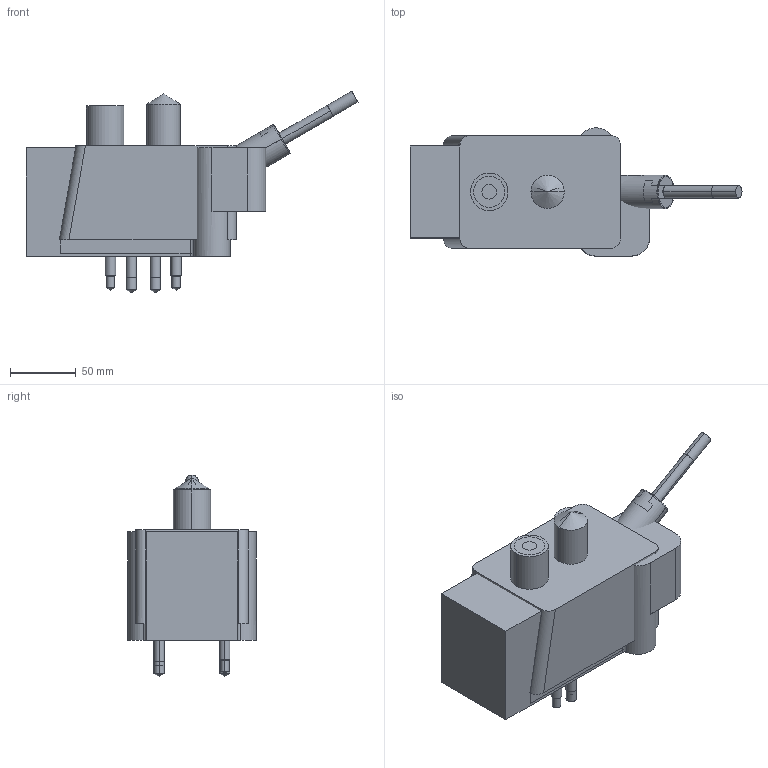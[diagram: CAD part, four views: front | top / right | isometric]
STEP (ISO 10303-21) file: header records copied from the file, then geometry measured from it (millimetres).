
FILE_DESCRIPTION((' '),'2;1');
FILE_NAME( 'EZ-30-P-L.stp', '2023-11-30T09:07:38', (' '), ('--- Datakit www.datakit.com---'), ' Datakit CrossCadWare V2020.4 Oct 21 2020', 'Export from SolidLink (Hexagon Production Software)', ' ');
FILE_SCHEMA(('AP242_MANAGED_MODEL_BASED_3D_ENGINEERING_MIM_LF { 1 0 10303 442 1 1 4 }'));
Length unit declared in the file: millimetre
Products named in the file (128): Workplanes; 1700579387; 1679436926; 1700504275; 1700504381; 1679429420; 1679429422; 1679429427; 1679429428; 1679429429; 1679429432; 1679429439; 1679429458; 1679429459; 1679429460; 1679429461; 1679429462; 1700842404; 1700842506; 1701271636; 1701353783; 1701353784; 1701353785; 1701353786; 1701353787; 1701353788; 1701353789; 1701353790; 1701353791; 1701353792; 1701353793; 1701353794; 1701353795; 1701353796; 1701353797; 1701353798; 1701353799; 1701353800; 1701353801; 1701353802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
Bounding box: 252.99 x 97.75 x 153.54 mm (x, y, z)
Volume: 2581891.7 mm3; surface area: 234367.6 mm2
Topology: 18 solids, 19 shells, 472 faces, 1333 edges, 1118 vertices
Faces by surface type: cylinder 184, plane 166, cone 102, sphere 6, torus 6, bspline 4, revolution 4
Entity records: 21143 total; most frequent: CARTESIAN_POINT 7461, DIRECTION 2746, ORIENTED_EDGE 2204, EDGE_CURVE 1108, AXIS2_PLACEMENT_3D 1084, VERTEX_POINT 708, VECTOR 574, LINE 574
